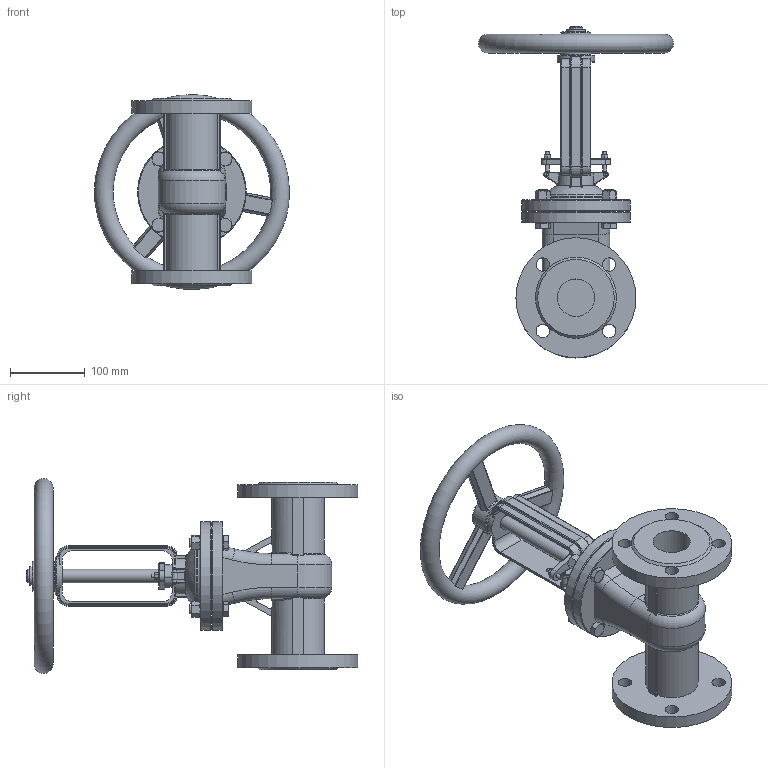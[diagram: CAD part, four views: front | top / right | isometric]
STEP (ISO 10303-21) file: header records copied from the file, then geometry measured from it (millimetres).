
FILE_DESCRIPTION(('STEP AP242'), '1');
FILE_NAME('GVWR3131M-2W-F-S Çàäâèæêà êëèíîâàÿ ñ âûäâèæíûì øòîêîì DN.ru Äó50 Ðó40', '2026-05-30T16:42:17', ('R2D2'), (''), 'C3D Converter', 'C3D Toolkit', '');
FILE_SCHEMA(('AP242_MANAGED_MODEL_BASED_3D_ENGINEERING_MIM_LF { 1 0 10303 442 1 1 4 }'));
Length unit declared in the file: millimetre
Products named in the file (1): GVWR3131M-2W-F-S
Bounding box: 259.83 x 442.5 x 259.73 mm (x, y, z)
Volume: 2970765.9 mm3; surface area: 394814.6 mm2
Topology: 1 solids, 1 shells, 888 faces, 2273 edges, 1414 vertices
Faces by surface type: plane 337, cylinder 184, cone 109, extrusion 95, bspline 93, torus 69, sphere 1
Full cylindrical faces by diameter (mm): 3 x4, 5 x4, 8 x2, 12 x8, 18 x14, 20 x1, 25 x1, 30 x1, 40 x2, 50 x4, 90 x2, 145 x2, 160 x2
Entity records: 51570 total; most frequent: CARTESIAN_POINT 24455, ORIENTED_EDGE 4392, DIRECTION 3534, EDGE_CURVE 2196, VERTEX_POINT 1409, AXIS2_PLACEMENT_3D 1310, EDGE_LOOP 1039, FACE_BOUND 964
